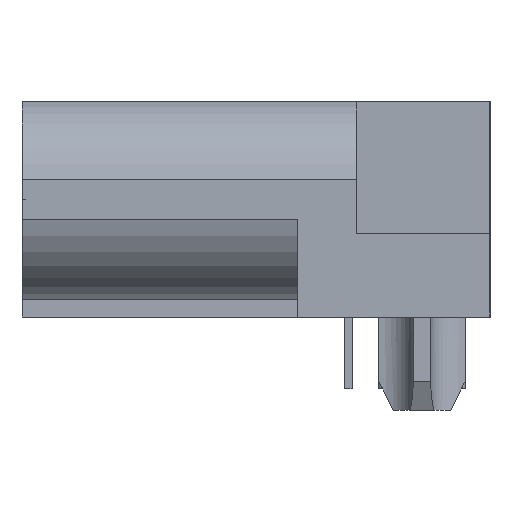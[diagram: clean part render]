
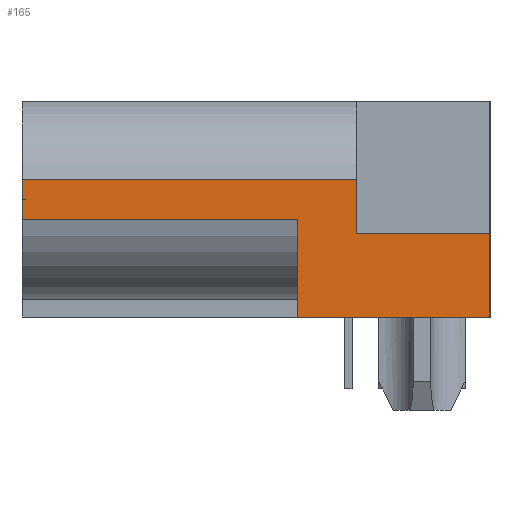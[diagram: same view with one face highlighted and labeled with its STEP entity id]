
A CAD part, left-side view. The second image highlights one B-rep face of the part: STEP entity #165.
In plain terms, the highlighted planar face has unit normal (-1, 0, 0).
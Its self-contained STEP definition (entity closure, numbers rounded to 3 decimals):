
#165 = ADVANCED_FACE ( 'NONE', ( #14252 ), #14246, .T. ) ;
#1109 = EDGE_LOOP ( 'NONE', ( #57644, #9369, #58296, #9747, #57627, #58229, #9949, #57743 ) ) ;
#8595 = EDGE_CURVE ( 'NONE', #60608, #60671, #31891, .T. ) ;
#8602 = EDGE_CURVE ( 'NONE', #60653, #60608, #31907, .T. ) ;
#9369 = ORIENTED_EDGE ( 'NONE', *, *, #8602, .F. ) ;
#9747 = ORIENTED_EDGE ( 'NONE', *, *, #62615, .F. ) ;
#9949 = ORIENTED_EDGE ( 'NONE', *, *, #62260, .T. ) ;
#14246 = PLANE ( 'NONE',  #57128 ) ;
#14248 = CARTESIAN_POINT ( 'NONE',  ( -46.09, 15.467, -0.05 ) ) ;
#14252 = FACE_OUTER_BOUND ( 'NONE', #1109, .T. ) ;
#14254 = DIRECTION ( 'NONE',  ( -1., 0., 0. ) ) ;
#14255 = DIRECTION ( 'NONE',  ( 0., -1., 0. ) ) ;
#28607 = VECTOR ( 'NONE', #31912, 1000. ) ;
#28608 = VECTOR ( 'NONE', #31897, 1000. ) ;
#31891 = LINE ( 'NONE', #31896, #28608 ) ;
#31896 = CARTESIAN_POINT ( 'NONE',  ( -46.09, -2.6, -4.196 ) ) ;
#31897 = DIRECTION ( 'NONE',  ( 0., 1., 0. ) ) ;
#31907 = LINE ( 'NONE', #31911, #28607 ) ;
#31911 = CARTESIAN_POINT ( 'NONE',  ( -46.09, -2.6, -3.5 ) ) ;
#31912 = DIRECTION ( 'NONE',  ( 0., 0., 1. ) ) ;
#48493 = VECTOR ( 'NONE', #51373, 1000. ) ;
#48508 = VECTOR ( 'NONE', #51412, 1000. ) ;
#48870 = VECTOR ( 'NONE', #52366, 1000. ) ;
#48896 = VECTOR ( 'NONE', #52438, 1000. ) ;
#48930 = VECTOR ( 'NONE', #52526, 1000. ) ;
#48961 = VECTOR ( 'NONE', #52603, 1000. ) ;
#50125 = CARTESIAN_POINT ( 'NONE',  ( -46.09, -2.6, -4.196 ) ) ;
#50170 = CARTESIAN_POINT ( 'NONE',  ( -46.09, -2.6, -7.6 ) ) ;
#50188 = CARTESIAN_POINT ( 'NONE',  ( -46.09, 7., -4.196 ) ) ;
#51371 = LINE ( 'NONE', #51372, #48493 ) ;
#51372 = CARTESIAN_POINT ( 'NONE',  ( -46.09, -4.65, -2.804 ) ) ;
#51373 = DIRECTION ( 'NONE',  ( 0., 1., 0. ) ) ;
#51410 = LINE ( 'NONE', #51411, #48508 ) ;
#51411 = CARTESIAN_POINT ( 'NONE',  ( -46.09, -4.65, -4.7 ) ) ;
#51412 = DIRECTION ( 'NONE',  ( 0., -1., 0. ) ) ;
#52364 = LINE ( 'NONE', #52365, #48870 ) ;
#52365 = CARTESIAN_POINT ( 'NONE',  ( -46.09, 15.467, -7.6 ) ) ;
#52366 = DIRECTION ( 'NONE',  ( 0., -1., 0. ) ) ;
#52436 = LINE ( 'NONE', #52437, #48896 ) ;
#52437 = CARTESIAN_POINT ( 'NONE',  ( -46.09, -9.3, -0.05 ) ) ;
#52438 = DIRECTION ( 'NONE',  ( 0., 0., -1. ) ) ;
#52524 = LINE ( 'NONE', #52525, #48930 ) ;
#52525 = CARTESIAN_POINT ( 'NONE',  ( -46.09, -4.65, -6.2 ) ) ;
#52526 = DIRECTION ( 'NONE',  ( 0., 0., 1. ) ) ;
#52601 = LINE ( 'NONE', #52602, #48961 ) ;
#52602 = CARTESIAN_POINT ( 'NONE',  ( -46.09, 7., -3.5 ) ) ;
#52603 = DIRECTION ( 'NONE',  ( 0., 0., 1. ) ) ;
#55536 = CARTESIAN_POINT ( 'NONE',  ( -46.09, -9.3, -4.7 ) ) ;
#55614 = CARTESIAN_POINT ( 'NONE',  ( -46.09, -4.65, -2.804 ) ) ;
#55856 = CARTESIAN_POINT ( 'NONE',  ( -46.09, -4.65, -4.7 ) ) ;
#56244 = CARTESIAN_POINT ( 'NONE',  ( -46.09, -9.3, -7.6 ) ) ;
#56883 = CARTESIAN_POINT ( 'NONE',  ( -46.09, 7., -2.804 ) ) ;
#57128 = AXIS2_PLACEMENT_3D ( 'NONE', #14248, #14254, #14255 ) ;
#57627 = ORIENTED_EDGE ( 'NONE', *, *, #62273, .F. ) ;
#57644 = ORIENTED_EDGE ( 'NONE', *, *, #8595, .F. ) ;
#57743 = ORIENTED_EDGE ( 'NONE', *, *, #62670, .F. ) ;
#58229 = ORIENTED_EDGE ( 'NONE', *, *, #62645, .T. ) ;
#58296 = ORIENTED_EDGE ( 'NONE', *, *, #62591, .T. ) ;
#60608 = VERTEX_POINT ( 'NONE', #50125 ) ;
#60653 = VERTEX_POINT ( 'NONE', #50170 ) ;
#60671 = VERTEX_POINT ( 'NONE', #50188 ) ;
#62260 = EDGE_CURVE ( 'NONE', #63809, #64447, #51371, .T. ) ;
#62273 = EDGE_CURVE ( 'NONE', #63930, #63770, #51410, .T. ) ;
#62591 = EDGE_CURVE ( 'NONE', #60653, #64124, #52364, .T. ) ;
#62615 = EDGE_CURVE ( 'NONE', #63770, #64124, #52436, .T. ) ;
#62645 = EDGE_CURVE ( 'NONE', #63930, #63809, #52524, .T. ) ;
#62670 = EDGE_CURVE ( 'NONE', #60671, #64447, #52601, .T. ) ;
#63770 = VERTEX_POINT ( 'NONE', #55536 ) ;
#63809 = VERTEX_POINT ( 'NONE', #55614 ) ;
#63930 = VERTEX_POINT ( 'NONE', #55856 ) ;
#64124 = VERTEX_POINT ( 'NONE', #56244 ) ;
#64447 = VERTEX_POINT ( 'NONE', #56883 ) ;
